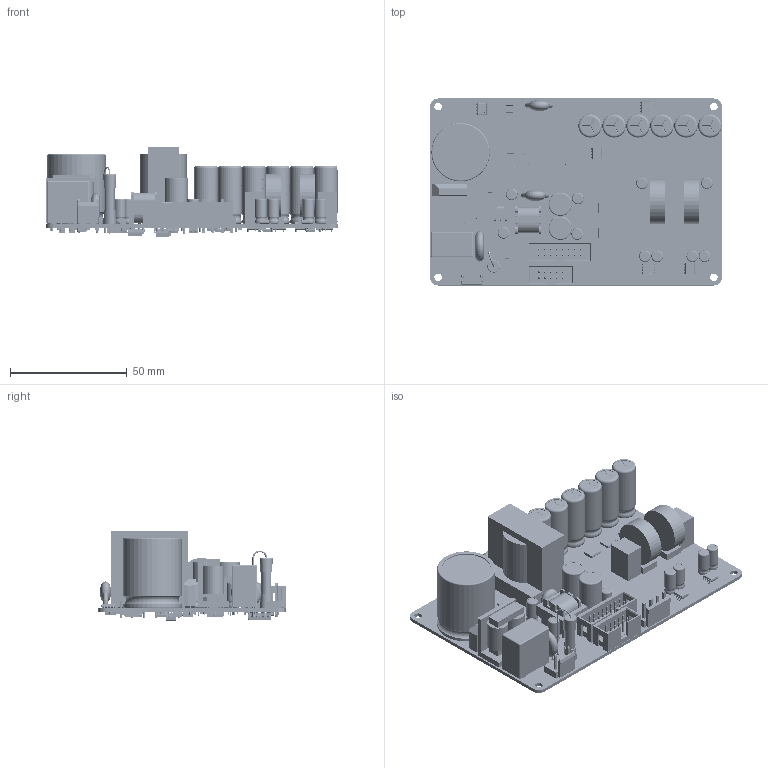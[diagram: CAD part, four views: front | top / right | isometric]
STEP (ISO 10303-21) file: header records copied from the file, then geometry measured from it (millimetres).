
FILE_DESCRIPTION(('Open CASCADE Model'),'2;1');
FILE_NAME('Open CASCADE Shape Model','2022-09-19T12:19:14',('Author'),( 'Open CASCADE'),'Open CASCADE STEP processor 6.8','Open CASCADE 6.8' ,'Unknown');
FILE_SCHEMA(('AUTOMOTIVE_DESIGN { 1 0 10303 214 1 1 1 1 }'));
Length unit declared in the file: millimetre
Products named in the file (160): PCB; Board; Open CASCADE STEP translator 6.8 1.1.1; D307; SW3dPS-S1G; C102; SW3dPS-1206_SMD_Capacitor; L1102; 9362223280; Extruded; 9362211200; Cylinder; L802; 9362223680; C105; C104; U1203; SOIC14; U1202; SO8; SO8_PIN; SO8_BODY; U1201; U1001; U901; U701; U601; U404; CircuitWorks-SOT-89; U403; SW3dPS-SOT-89-1; U402; U401; U302; SW3dPS-Regulator; U301; DIL8_SM; U205; 9363777920; 9363777600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
Assembly tree (244 placements, depth 4):
  PCB
    Board
      Open CASCADE STEP translator 6.8 1.1.1
    D307
      SW3dPS-S1G
    C102
      SW3dPS-1206_SMD_Capacitor
    L1102
      9362223280
        Extruded
      9362211200
        Cylinder
    L802
      9362223680
        Cylinder
      9362223280
        Extruded
    C105
      SW3dPS-1206_SMD_Capacitor
    C104
      SW3dPS-1206_SMD_Capacitor
    U1203
      SOIC14
    U1202
      SO8
        SO8_PIN  x8
        SO8_BODY
    U1201
      SO8
        SO8_PIN  x8
        SO8_BODY
    U1001
      SO8
        SO8_PIN  x8
        SO8_BODY
    U901
      SO8
        SO8_PIN  x8
        SO8_BODY
    U701
      SO8
        SO8_PIN  x8
        SO8_BODY
    U601
      SO8
        SO8_PIN  x8
        SO8_BODY
    U404
      CircuitWorks-SOT-89
    U403
      SW3dPS-SOT-89-1
    U402
      SW3dPS-SOT-89-1
    U401
      CircuitWorks-SOT-89
    U302
      SW3dPS-Regulator
    U301
      DIL8_SM
    U205
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Bounding box: 125 x 80 x 38.39 mm (x, y, z)
Volume: 89146.2 mm3; surface area: 66336.7 mm2
Topology: 252 solids, 263 shells, 12517 faces, 31637 edges, 19884 vertices
Faces by surface type: plane 6707, cylinder 2690, bspline 2064, sphere 599, torus 439, revolution 18
Full cylindrical faces by diameter (mm): 0.5 x24, 0.7 x20, 0.8 x14, 0.9 x46, 1 x22, 1.2 x10, 1.3 x4, 1.65 x6, 2 x2, 3.2 x4, 9 x2, 19 x2, 20 x1
Entity records: 167901 total; most frequent: CARTESIAN_POINT 47287, ORIENTED_EDGE 19788, DIRECTION 19149, EDGE_CURVE 9902, AXIS2_PLACEMENT_3D 6401, LINE 6329, VECTOR 6329, VERTEX_POINT 6204
